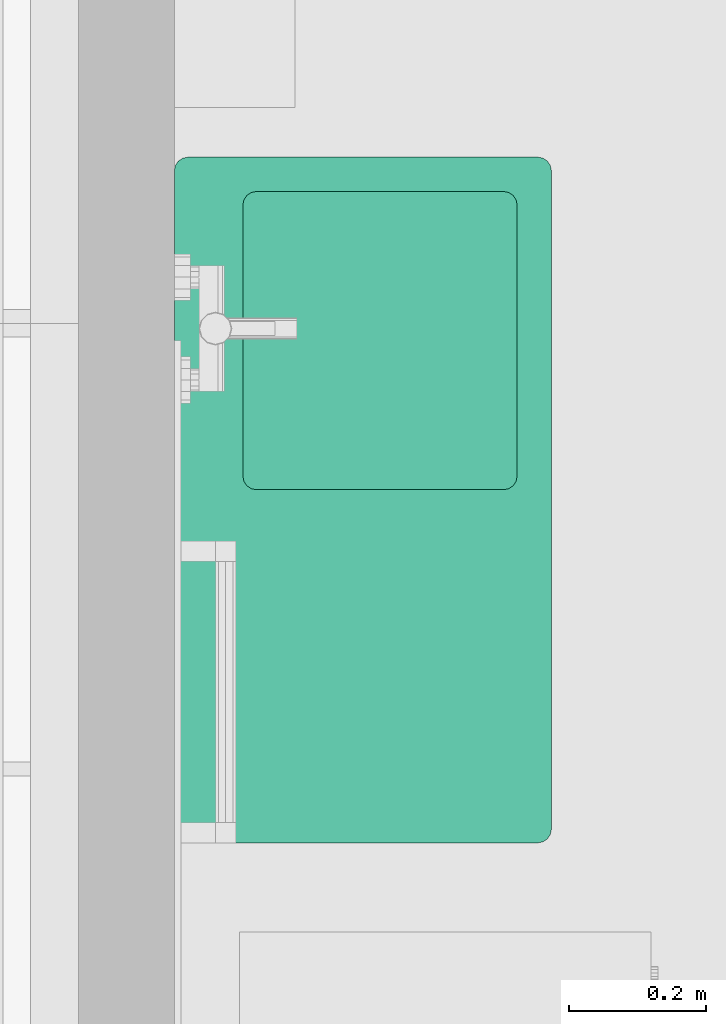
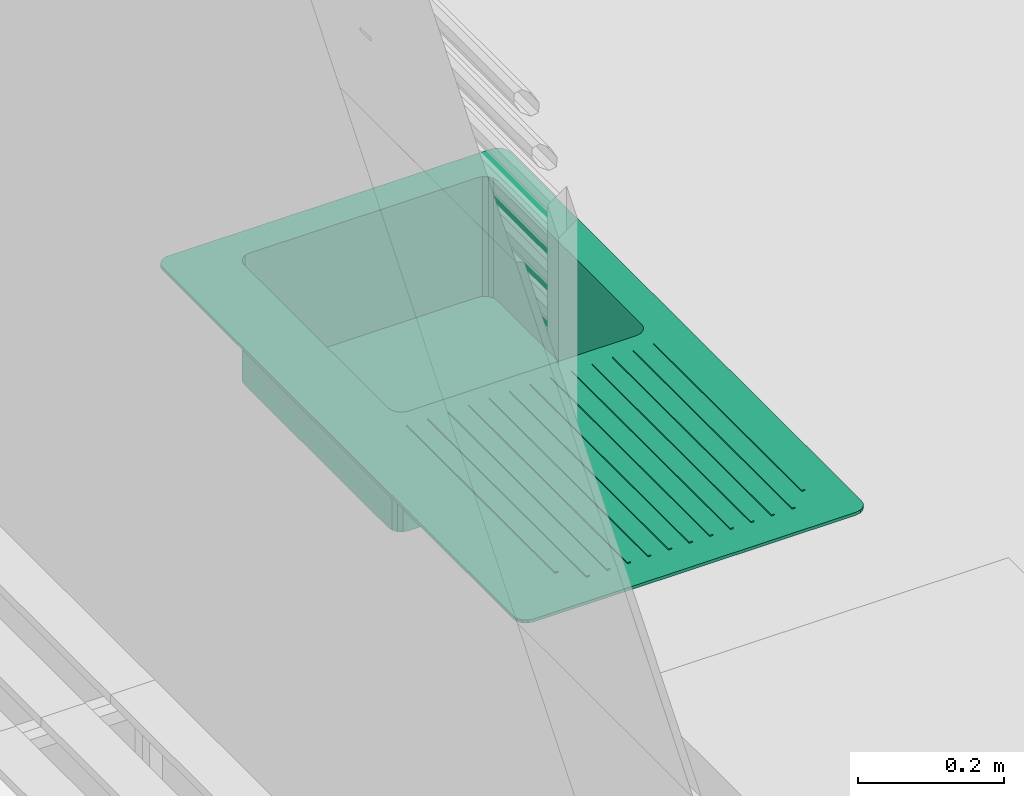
# One storey, part 267 of 301: 1 flow terminal.
"""IFC2X3 building model written with IfcOpenShell, lengths in millimetres."""

from ifc_helpers import new_model, entity, si_unit, converted_unit, derived_unit, money_unit, direction, frame, origin_with_axes, place, context, subcontext, project, spatial, open_shell, faceted_brep, surface_model, type_object, element, save


model = new_model("IFC2X3")

# Units and contexts
model_context = context("Model", 3, precision=0.01, world=origin_with_axes(), true_north=direction((0.0, 1.0)))
body_context = subcontext(model_context, "Body", "Model", "MODEL_VIEW")
ifc_project = project(units=[si_unit("LENGTHUNIT", "METRE", prefix="MILLI"), si_unit("AREAUNIT", "SQUARE_METRE"), si_unit("VOLUMEUNIT", "CUBIC_METRE"), converted_unit("PLANEANGLEUNIT", "DEGREE", entity("IfcPlaneAngleMeasure", 0.0174532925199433), si_unit("PLANEANGLEUNIT", "RADIAN"), dimensions=[0, 0, 0, 0, 0, 0, 0]), money_unit("EUR"), converted_unit("TIMEUNIT", "Year", entity("IfcTimeMeasure", 31557600.0), si_unit("TIMEUNIT", "SECOND"), dimensions=[0, 0, 1, 0, 0, 0, 0]), si_unit("MASSUNIT", "GRAM", prefix="KILO"), si_unit("THERMODYNAMICTEMPERATUREUNIT", "DEGREE_CELSIUS"), si_unit("LUMINOUSINTENSITYUNIT", "LUMEN"), si_unit("ENERGYUNIT", "JOULE", prefix="MEGA"), derived_unit("THERMALCONDUCTANCEUNIT", [(si_unit("POWERUNIT", "WATT"), 1), (si_unit("LENGTHUNIT", "METRE"), -1), (si_unit("THERMODYNAMICTEMPERATUREUNIT", "KELVIN"), -1)]), derived_unit("SPECIFICHEATCAPACITYUNIT", [(si_unit("ENERGYUNIT", "JOULE"), 1), (si_unit("MASSUNIT", "GRAM", prefix="KILO"), -1), (si_unit("THERMODYNAMICTEMPERATUREUNIT", "KELVIN"), -1)]), derived_unit("MASSDENSITYUNIT", [(si_unit("MASSUNIT", "GRAM", prefix="KILO"), 1), (si_unit("VOLUMEUNIT", "CUBIC_METRE"), -1)])], contexts=[model_context])

# Site, building, storey
site_placement = place(None, frame((0.0, 0.0, 8650.0), z_axis=(0.0, 0.0, 1.0), x_axis=(1.0, 0.0, 0.0)))
site = spatial("IfcSite", under=ifc_project, at=site_placement, Name="43301:001:0844", CompositionType="ELEMENT")
building_placement = place(site_placement, origin_with_axes())
building = spatial("IfcBuilding", under=site, at=building_placement, Name="Kuressaare Ametikooli tuulikute mehaanikute õppekorpus", CompositionType="ELEMENT")
storey_placement = place(building_placement, origin_with_axes())
storey = spatial("IfcBuildingStorey", under=building, at=storey_placement, Name="1.korrus", CompositionType="ELEMENT", Elevation=0.0)

# Flow terminal
sanitary_terminal_type = type_object("IfcSanitaryTerminalType", Name="Sink General 27", PredefinedType="NOTDEFINED")
flow_terminal_placement = place(storey_placement, frame((131164.9464826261, 22116.46984143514, 0.0), z_axis=(0.0, 0.0, 1.0), x_axis=(0.0, 1.0, 0.0)))
element("IfcFlowTerminal", 1, at=flow_terminal_placement, inside=storey, type_object=sanitary_terminal_type, Name="V4", context=body_context, shape_type="SurfaceModel", body=[
    surface_model("IfcShellBasedSurfaceModel", [(-70.0, 50.0, 705.0), (-70.0, 50.0, 899.9999999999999), (-464.9999999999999, 50.0, 899.9999999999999), (-464.9999999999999, 50.0, 705.0), (-62.34633135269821, 51.52240934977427, 705.0), (-62.34633135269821, 51.52240934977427, 899.9999999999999), (-472.6536686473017, 51.52240934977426, 899.9999999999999), (-472.6536686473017, 51.52240934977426, 705.0), (-479.142135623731, 55.85786437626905, 705.0), (-483.4775906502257, 62.3463313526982, 705.0), (-485.0, 70.0, 705.0), (-485.0, 430.0000000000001, 705.0), (-483.4775906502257, 437.6536686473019, 705.0), (-479.142135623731, 444.142135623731, 705.0), (-472.6536686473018, 448.4775906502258, 705.0), (-464.9999999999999, 450.0000000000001, 705.0), (-70.0, 450.0000000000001, 705.0), (-62.34633135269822, 448.4775906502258, 705.0), (-55.85786437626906, 444.142135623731, 705.0), (-51.52240934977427, 437.6536686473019, 705.0), (-50.0, 430.0000000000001, 705.0), (-50.0, 70.0, 705.0), (-51.52240934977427, 62.34633135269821, 705.0), (-55.85786437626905, 55.85786437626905, 705.0), (-55.85786437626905, 55.85786437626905, 899.9999999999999), (-479.142135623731, 55.85786437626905, 899.9999999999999), (-483.4775906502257, 62.3463313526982, 899.9999999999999), (-485.0, 70.0, 899.9999999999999), (-485.0, 430.0000000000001, 899.9999999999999), (-483.4775906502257, 437.6536686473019, 899.9999999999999), (-479.142135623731, 444.142135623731, 899.9999999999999), (-472.6536686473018, 448.4775906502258, 899.9999999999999), (-464.9999999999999, 450.0000000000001, 899.9999999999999), (-70.0, 450.0000000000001, 899.9999999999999), (-62.34633135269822, 448.4775906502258, 899.9999999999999), (-55.85786437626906, 444.142135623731, 899.9999999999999), (-51.52240934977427, 437.6536686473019, 899.9999999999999), (-50.0, 430.0000000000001, 899.9999999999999), (-50.0, 70.0, 899.9999999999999), (-51.52240934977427, 62.34633135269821, 899.9999999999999)], [open_shell([[[0, 1, 2, 3]], [[4, 5, 1, 0]], [[3, 2, 6, 7]], [[0, 3, 7, 8, 9, 10, 11, 12, 13, 14, 15, 16, 17, 18, 19, 20, 21, 22, 23, 4]], [[23, 24, 5, 4]], [[7, 6, 25, 8]], [[8, 25, 26, 9]], [[9, 26, 27, 10]], [[10, 27, 28, 11]], [[11, 28, 29, 12]], [[12, 29, 30, 13]], [[13, 30, 31, 14]], [[14, 31, 32, 15]], [[15, 32, 33, 16]], [[16, 33, 34, 17]], [[17, 34, 35, 18]], [[18, 35, 36, 19]], [[19, 36, 37, 20]], [[20, 37, 38, 21]], [[21, 38, 39, 22]], [[22, 39, 24, 23]]])]),
    faceted_brep([(-20.0, 0.0, 899.9999999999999), (-20.0, 0.0, 904.9999999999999), (-980.0, 0.0, 904.9999999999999), (-980.0, 0.0, 899.9999999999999), (-12.34633135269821, 1.522409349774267, 899.9999999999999), (-12.34633135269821, 1.522409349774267, 904.9999999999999), (-5.857864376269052, 5.857864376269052, 904.9999999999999), (-1.522409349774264, 12.34633135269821, 904.9999999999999), (0.0, 20.0, 904.9999999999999), (0.0, 530.0, 904.9999999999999), (-1.522409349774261, 537.6536686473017, 904.9999999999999), (-5.85786437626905, 544.1421356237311, 904.9999999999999), (-12.34633135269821, 548.4775906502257, 904.9999999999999), (-20.0, 550.0, 904.9999999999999), (-980.0, 550.0, 904.9999999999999), (-987.6536686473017, 548.4775906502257, 904.9999999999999), (-994.142135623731, 544.1421356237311, 904.9999999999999), (-998.4775906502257, 537.6536686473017, 904.9999999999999), (-1000.0, 530.0, 904.9999999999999), (-1000.0, 20.0, 904.9999999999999), (-998.4775906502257, 12.3463313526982, 904.9999999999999), (-994.142135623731, 5.857864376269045, 904.9999999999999), (-987.6536686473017, 1.522409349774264, 904.9999999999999), (-70.0, 50.0, 904.9999999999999), (-464.9999999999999, 50.0, 904.9999999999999), (-472.6536686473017, 51.52240934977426, 904.9999999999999), (-479.142135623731, 55.85786437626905, 904.9999999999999), (-483.4775906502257, 62.3463313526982, 904.9999999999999), (-485.0, 70.0, 904.9999999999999), (-485.0, 430.0000000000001, 904.9999999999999), (-483.4775906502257, 437.6536686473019, 904.9999999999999), (-479.142135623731, 444.142135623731, 904.9999999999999), (-472.6536686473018, 448.4775906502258, 904.9999999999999), (-464.9999999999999, 450.0000000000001, 904.9999999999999), (-70.0, 450.0000000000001, 904.9999999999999), (-62.34633135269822, 448.4775906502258, 904.9999999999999), (-55.85786437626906, 444.142135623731, 904.9999999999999), (-51.52240934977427, 437.6536686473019, 904.9999999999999), (-50.0, 430.0000000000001, 904.9999999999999), (-50.0, 70.0, 904.9999999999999), (-51.52240934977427, 62.34633135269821, 904.9999999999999), (-55.85786437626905, 55.85786437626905, 904.9999999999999), (-62.34633135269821, 51.52240934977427, 904.9999999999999), (-987.6536686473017, 1.522409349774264, 899.9999999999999), (-994.142135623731, 5.857864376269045, 899.9999999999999), (-998.4775906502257, 12.3463313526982, 899.9999999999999), (-1000.0, 20.0, 899.9999999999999), (-1000.0, 530.0, 899.9999999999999), (-998.4775906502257, 537.6536686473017, 899.9999999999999), (-994.142135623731, 544.1421356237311, 899.9999999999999), (-987.6536686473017, 548.4775906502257, 899.9999999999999), (-980.0, 550.0, 899.9999999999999), (-20.0, 550.0, 899.9999999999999), (-12.34633135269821, 548.4775906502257, 899.9999999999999), (-5.85786437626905, 544.1421356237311, 899.9999999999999), (-1.522409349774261, 537.6536686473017, 899.9999999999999), (0.0, 530.0, 899.9999999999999), (0.0, 20.0, 899.9999999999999), (-1.522409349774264, 12.34633135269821, 899.9999999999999), (-5.857864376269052, 5.857864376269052, 899.9999999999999), (-70.0, 50.0, 899.9999999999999), (-62.34633135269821, 51.52240934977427, 899.9999999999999), (-55.85786437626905, 55.85786437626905, 899.9999999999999), (-51.52240934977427, 62.34633135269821, 899.9999999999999), (-50.0, 70.0, 899.9999999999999), (-50.0, 430.0000000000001, 899.9999999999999), (-51.52240934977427, 437.6536686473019, 899.9999999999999), (-55.85786437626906, 444.142135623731, 899.9999999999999), (-62.34633135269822, 448.4775906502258, 899.9999999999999), (-70.0, 450.0000000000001, 899.9999999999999), (-464.9999999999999, 450.0000000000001, 899.9999999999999), (-472.6536686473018, 448.4775906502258, 899.9999999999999), (-479.142135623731, 444.142135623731, 899.9999999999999), (-483.4775906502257, 437.6536686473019, 899.9999999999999), (-485.0, 430.0000000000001, 899.9999999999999), (-485.0, 70.0, 899.9999999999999), (-483.4775906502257, 62.3463313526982, 899.9999999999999), (-479.142135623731, 55.85786437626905, 899.9999999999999), (-472.6536686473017, 51.52240934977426, 899.9999999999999), (-464.9999999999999, 50.0, 899.9999999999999)], [[[0, 1, 2, 3]], [[4, 5, 1, 0]], [[1, 5, 6, 7, 8, 9, 10, 11, 12, 13, 14, 15, 16, 17, 18, 19, 20, 21, 22, 2], [23, 24, 25, 26, 27, 28, 29, 30, 31, 32, 33, 34, 35, 36, 37, 38, 39, 40, 41, 42]], [[3, 2, 22, 43]], [[0, 3, 43, 44, 45, 46, 47, 48, 49, 50, 51, 52, 53, 54, 55, 56, 57, 58, 59, 4], [60, 61, 62, 63, 64, 65, 66, 67, 68, 69, 70, 71, 72, 73, 74, 75, 76, 77, 78, 79]], [[59, 6, 5, 4]], [[58, 7, 6, 59]], [[57, 8, 7, 58]], [[56, 9, 8, 57]], [[55, 10, 9, 56]], [[54, 11, 10, 55]], [[53, 12, 11, 54]], [[52, 13, 12, 53]], [[51, 14, 13, 52]], [[50, 15, 14, 51]], [[49, 16, 15, 50]], [[48, 17, 16, 49]], [[47, 18, 17, 48]], [[46, 19, 18, 47]], [[45, 20, 19, 46]], [[44, 21, 20, 45]], [[43, 22, 21, 44]], [[79, 24, 23, 60]], [[78, 25, 24, 79]], [[77, 26, 25, 78]], [[76, 27, 26, 77]], [[75, 28, 27, 76]], [[74, 29, 28, 75]], [[73, 30, 29, 74]], [[72, 31, 30, 73]], [[71, 32, 31, 72]], [[70, 33, 32, 71]], [[69, 34, 33, 70]], [[68, 35, 34, 69]], [[67, 36, 35, 68]], [[66, 37, 36, 67]], [[65, 38, 37, 66]], [[64, 39, 38, 65]], [[63, 40, 39, 64]], [[62, 41, 40, 63]], [[61, 42, 41, 62]], [[60, 23, 42, 61]]]),
    faceted_brep([(-515.0, 55.0, 904.9999999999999), (-515.0, 55.0, 906.9999999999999), (-919.9999999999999, 55.0, 906.9999999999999), (-919.9999999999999, 55.0, 904.9999999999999), (-515.0, 60.00000000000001, 904.9999999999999), (-515.0, 60.00000000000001, 906.9999999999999), (-919.9999999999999, 60.00000000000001, 906.9999999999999), (-919.9999999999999, 60.00000000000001, 904.9999999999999)], [[[0, 1, 2, 3]], [[4, 5, 1, 0]], [[1, 5, 6, 2]], [[3, 2, 6, 7]], [[0, 3, 7, 4]], [[7, 6, 5, 4]]]),
    faceted_brep([(-515.0, 87.50000000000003, 904.9999999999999), (-515.0, 87.50000000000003, 906.9999999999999), (-950.0, 87.50000000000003, 906.9999999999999), (-950.0, 87.50000000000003, 904.9999999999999), (-515.0, 92.50000000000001, 904.9999999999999), (-515.0, 92.50000000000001, 906.9999999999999), (-950.0, 92.50000000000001, 906.9999999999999), (-950.0, 92.50000000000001, 904.9999999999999)], [[[0, 1, 2, 3]], [[4, 5, 1, 0]], [[1, 5, 6, 2]], [[3, 2, 6, 7]], [[0, 3, 7, 4]], [[7, 6, 5, 4]]]),
    faceted_brep([(-515.0, 120.0, 904.9999999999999), (-515.0, 120.0, 906.9999999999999), (-950.0, 120.0, 906.9999999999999), (-950.0, 120.0, 904.9999999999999), (-515.0, 125.0, 904.9999999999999), (-515.0, 125.0, 906.9999999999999), (-950.0, 125.0, 906.9999999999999), (-950.0, 125.0, 904.9999999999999)], [[[0, 1, 2, 3]], [[4, 5, 1, 0]], [[1, 5, 6, 2]], [[3, 2, 6, 7]], [[0, 3, 7, 4]], [[7, 6, 5, 4]]]),
    faceted_brep([(-515.0, 152.5, 904.9999999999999), (-515.0, 152.5, 906.9999999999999), (-950.0, 152.5, 906.9999999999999), (-950.0, 152.5, 904.9999999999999), (-515.0, 157.5, 904.9999999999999), (-515.0, 157.5, 906.9999999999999), (-950.0, 157.5, 906.9999999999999), (-950.0, 157.5, 904.9999999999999)], [[[0, 1, 2, 3]], [[4, 5, 1, 0]], [[1, 5, 6, 2]], [[3, 2, 6, 7]], [[0, 3, 7, 4]], [[7, 6, 5, 4]]]),
    faceted_brep([(-515.0, 185.0, 904.9999999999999), (-515.0, 185.0, 906.9999999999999), (-950.0, 185.0, 906.9999999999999), (-950.0, 185.0, 904.9999999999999), (-515.0, 190.0, 904.9999999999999), (-515.0, 190.0, 906.9999999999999), (-950.0, 190.0, 906.9999999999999), (-950.0, 190.0, 904.9999999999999)], [[[0, 1, 2, 3]], [[4, 5, 1, 0]], [[1, 5, 6, 2]], [[3, 2, 6, 7]], [[0, 3, 7, 4]], [[7, 6, 5, 4]]]),
    faceted_brep([(-515.0, 217.5, 904.9999999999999), (-515.0, 217.5, 906.9999999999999), (-950.0, 217.5, 906.9999999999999), (-950.0, 217.5, 904.9999999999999), (-515.0, 222.5, 904.9999999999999), (-515.0, 222.5, 906.9999999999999), (-950.0, 222.5, 906.9999999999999), (-950.0, 222.5, 904.9999999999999)], [[[0, 1, 2, 3]], [[4, 5, 1, 0]], [[1, 5, 6, 2]], [[3, 2, 6, 7]], [[0, 3, 7, 4]], [[7, 6, 5, 4]]]),
    faceted_brep([(-515.0, 250.0, 904.9999999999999), (-515.0, 250.0, 906.9999999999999), (-950.0, 250.0, 906.9999999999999), (-950.0, 250.0, 904.9999999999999), (-515.0, 255.0, 904.9999999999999), (-515.0, 255.0, 906.9999999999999), (-950.0, 255.0, 906.9999999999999), (-950.0, 255.0, 904.9999999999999)], [[[0, 1, 2, 3]], [[4, 5, 1, 0]], [[1, 5, 6, 2]], [[3, 2, 6, 7]], [[0, 3, 7, 4]], [[7, 6, 5, 4]]]),
    faceted_brep([(-515.0, 282.5000000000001, 904.9999999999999), (-515.0, 282.5000000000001, 906.9999999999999), (-950.0, 282.5000000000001, 906.9999999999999), (-950.0, 282.5000000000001, 904.9999999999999), (-515.0, 287.5000000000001, 904.9999999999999), (-515.0, 287.5000000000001, 906.9999999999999), (-950.0, 287.5000000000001, 906.9999999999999), (-950.0, 287.5000000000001, 904.9999999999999)], [[[0, 1, 2, 3]], [[4, 5, 1, 0]], [[1, 5, 6, 2]], [[3, 2, 6, 7]], [[0, 3, 7, 4]], [[7, 6, 5, 4]]]),
    faceted_brep([(-515.0, 315.0000000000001, 904.9999999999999), (-515.0, 315.0000000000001, 906.9999999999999), (-950.0, 315.0000000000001, 906.9999999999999), (-950.0, 315.0000000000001, 904.9999999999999), (-515.0, 320.0000000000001, 904.9999999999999), (-515.0, 320.0000000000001, 906.9999999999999), (-950.0, 320.0000000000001, 906.9999999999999), (-950.0, 320.0000000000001, 904.9999999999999)], [[[0, 1, 2, 3]], [[4, 5, 1, 0]], [[1, 5, 6, 2]], [[3, 2, 6, 7]], [[0, 3, 7, 4]], [[7, 6, 5, 4]]]),
    faceted_brep([(-515.0, 347.5000000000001, 904.9999999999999), (-515.0, 347.5000000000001, 906.9999999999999), (-950.0, 347.5000000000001, 906.9999999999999), (-950.0, 347.5000000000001, 904.9999999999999), (-515.0, 352.5000000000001, 904.9999999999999), (-515.0, 352.5000000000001, 906.9999999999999), (-950.0, 352.5000000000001, 906.9999999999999), (-950.0, 352.5000000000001, 904.9999999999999)], [[[0, 1, 2, 3]], [[4, 5, 1, 0]], [[1, 5, 6, 2]], [[3, 2, 6, 7]], [[0, 3, 7, 4]], [[7, 6, 5, 4]]]),
    faceted_brep([(-515.0, 380.0000000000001, 904.9999999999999), (-515.0, 380.0000000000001, 906.9999999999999), (-950.0, 380.0000000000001, 906.9999999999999), (-950.0, 380.0000000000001, 904.9999999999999), (-515.0, 385.0000000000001, 904.9999999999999), (-515.0, 385.0000000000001, 906.9999999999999), (-950.0, 385.0000000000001, 906.9999999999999), (-950.0, 385.0000000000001, 904.9999999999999)], [[[0, 1, 2, 3]], [[4, 5, 1, 0]], [[1, 5, 6, 2]], [[3, 2, 6, 7]], [[0, 3, 7, 4]], [[7, 6, 5, 4]]]),
    faceted_brep([(-515.0, 412.5000000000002, 904.9999999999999), (-515.0, 412.5000000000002, 906.9999999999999), (-950.0, 412.5000000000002, 906.9999999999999), (-950.0, 412.5000000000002, 904.9999999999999), (-515.0, 417.5000000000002, 904.9999999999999), (-515.0, 417.5000000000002, 906.9999999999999), (-950.0, 417.5000000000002, 906.9999999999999), (-950.0, 417.5000000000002, 904.9999999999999)], [[[0, 1, 2, 3]], [[4, 5, 1, 0]], [[1, 5, 6, 2]], [[3, 2, 6, 7]], [[0, 3, 7, 4]], [[7, 6, 5, 4]]]),
    faceted_brep([(-515.0, 445.0000000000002, 904.9999999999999), (-515.0, 445.0000000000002, 906.9999999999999), (-919.9999999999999, 445.0000000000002, 906.9999999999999), (-919.9999999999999, 445.0000000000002, 904.9999999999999), (-515.0, 450.0000000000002, 904.9999999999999), (-515.0, 450.0000000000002, 906.9999999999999), (-919.9999999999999, 450.0000000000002, 906.9999999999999), (-919.9999999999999, 450.0000000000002, 904.9999999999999)], [[[0, 1, 2, 3]], [[4, 5, 1, 0]], [[1, 5, 6, 2]], [[3, 2, 6, 7]], [[0, 3, 7, 4]], [[7, 6, 5, 4]]]),
])

save(model, "model.ifc")
